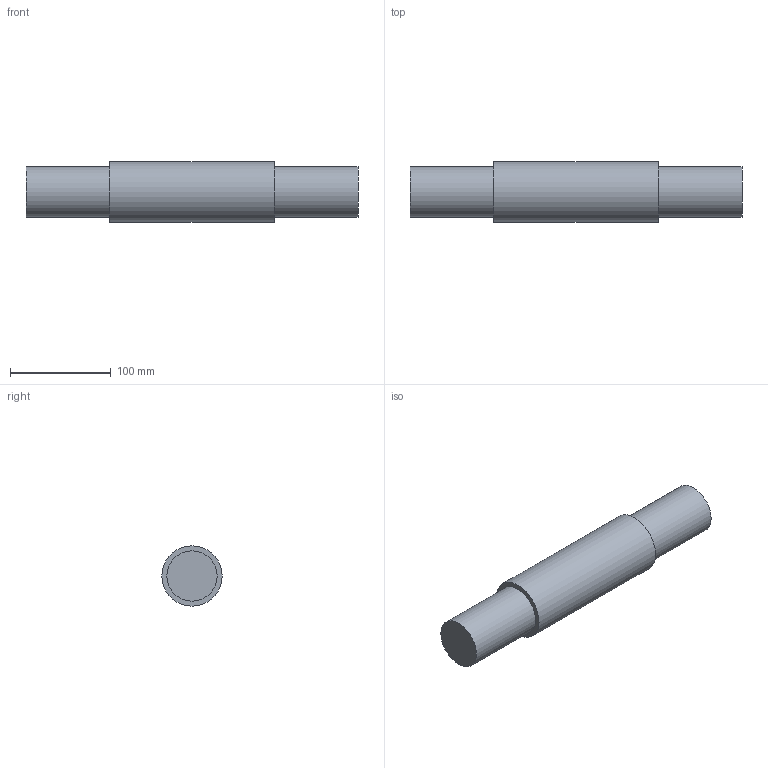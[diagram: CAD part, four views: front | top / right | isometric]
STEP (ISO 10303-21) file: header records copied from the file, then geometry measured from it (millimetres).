
FILE_DESCRIPTION(/* description */ (''),/* implementation_level */ '2;1');
FILE_NAME(/* name */ 'Pulley Pin.step',/* time_stamp */ '2026-10-06T11:29:06+05:30',/* author */ (''),/* organization */ (''),/* preprocessor_version */ 'ST-DEVELOPER v20.2',/* originating_system */ 'Autodesk Translation Framework v15.15.0.0',/* authorisation */ '');
FILE_SCHEMA (('AUTOMOTIVE_DESIGN { 1 0 10303 214 3 1 1 }'));
Length unit declared in the file: millimetre
Products named in the file (1): 2026-10-06-11-28-56-423
Bounding box: 330 x 60 x 60 mm (x, y, z)
Volume: 789639.3 mm3; surface area: 62643.4 mm2
Topology: 1 solids, 1 shells, 7 faces, 9 edges, 6 vertices
Faces by surface type: plane 4, cylinder 3
Full cylindrical faces by diameter (mm): 50 x2, 60 x1
Entity records: 182 total; most frequent: DIRECTION 31, CARTESIAN_POINT 23, ORIENTED_EDGE 18, AXIS2_PLACEMENT_3D 14, EDGE_LOOP 9, EDGE_CURVE 9, FACE_OUTER_BOUND 7, ADVANCED_FACE 7
